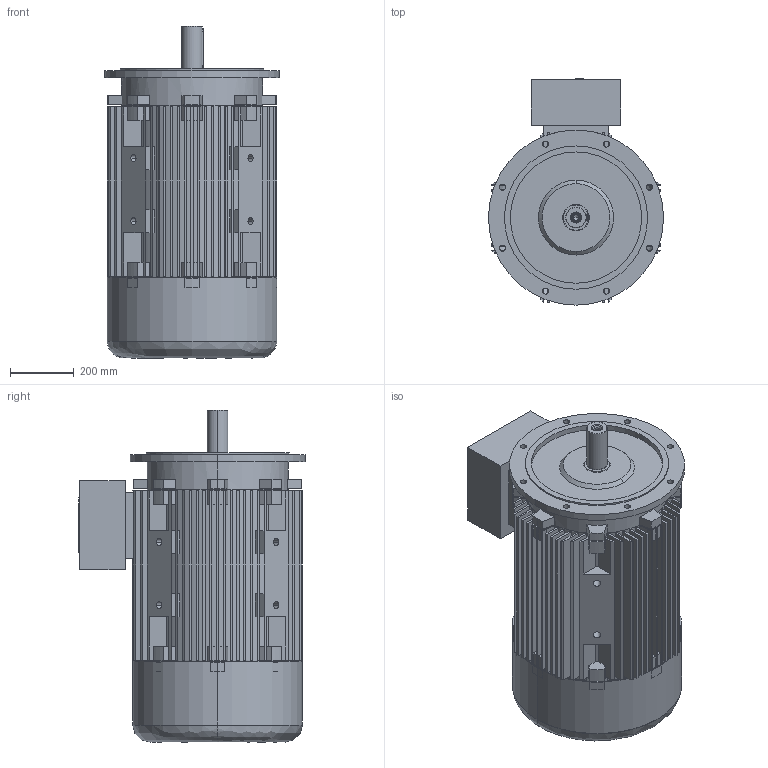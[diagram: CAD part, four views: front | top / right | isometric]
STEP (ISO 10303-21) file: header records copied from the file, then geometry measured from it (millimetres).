
FILE_DESCRIPTION (( 'STEP AP203' ), '1' );
FILE_NAME ('20.17511_B 7AT 280S&M -2 B5 STANDK.STEP', '2018-04-11T07:27:11', ( '' ), ( '' ), 'SwSTEP 2.0', 'SolidWorks 2017', '' );
FILE_SCHEMA (( 'CONFIG_CONTROL_DESIGN' ));
Length unit declared in the file: millimetre
Products named in the file (1): 20.17511_B 7AT 280S&M -2 B5 STANDK
Bounding box: 550 x 711 x 1043 mm (x, y, z)
Volume: 63805233.9 mm3; surface area: 8223010.6 mm2
Topology: 7 solids, 7 shells, 903 faces, 2457 edges, 1621 vertices
Faces by surface type: plane 702, cylinder 154, cone 34, bspline 13
Entity records: 29145 total; most frequent: CARTESIAN_POINT 5833, ORIENTED_EDGE 4878, DIRECTION 4789, EDGE_CURVE 2439, LINE 1787, VECTOR 1787, VERTEX_POINT 1621, AXIS2_PLACEMENT_3D 1501
